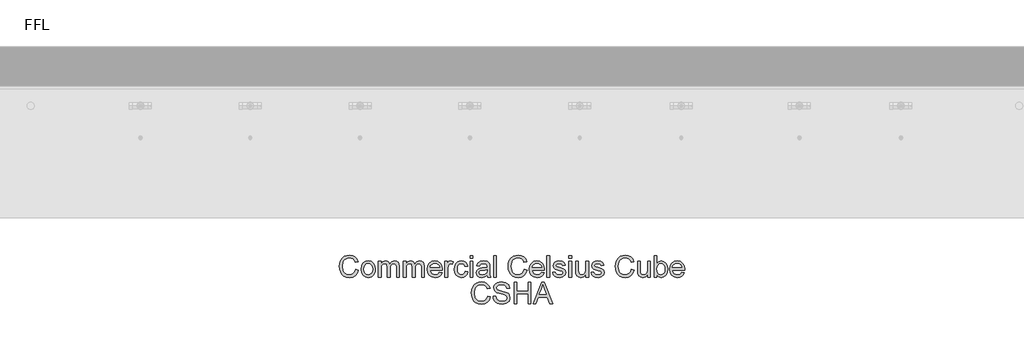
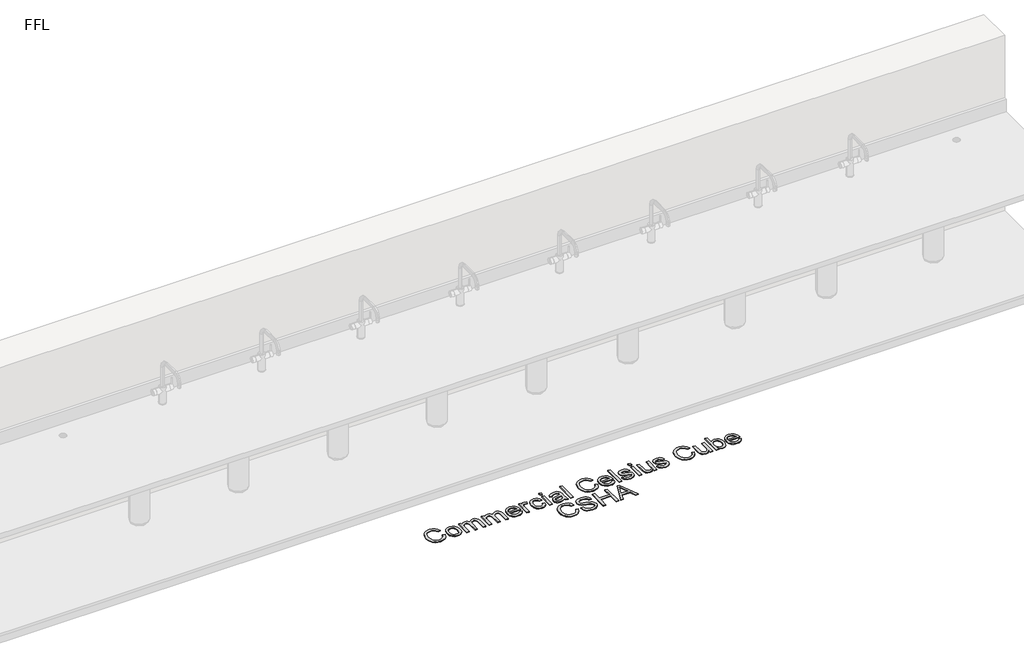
# One storey, part 6 of 10: 1 proxy.
"""IFC4 building model written with IfcOpenShell, lengths in millimetres."""

from ifc_helpers import new_model, si_unit, origin, origin_with_axes, place, context, project, spatial, polyline, outline, extrude, element, save

model = new_model("IFC4")

# Units and contexts
model_context = context("Model", 3, world=origin())
ifc_project = project(units=[si_unit("LENGTHUNIT", "METRE", prefix="MILLI")], contexts=[model_context])

# Site, building, storey
site = spatial("IfcSite", under=ifc_project)
building = spatial("IfcBuilding", under=site)
storey = spatial("IfcBuildingStorey", under=building, Name="FFL", Elevation=0.0)

# Proxy
placement = place(None, origin())
element("IfcBuildingElementProxy", 1, Name="150mm Arial", ObjectType="150mm Arial", at=placement, inside=storey, context=model_context, shape_type="SweptSolid", body=[
    extrude(outline(polyline([(6560.2647071, -1683.6981691), (6578.7262456, -1688.4577845), (6570.2076158, -1709.9707052), (6556.8392264, -1725.6873518), (6539.2791302, -1735.301234), (6518.1853802, -1738.5058614), (6496.7716182, -1736.0809816), (6479.7659091, -1728.8063422), (6466.7310533, -1716.934347), (6457.2298514, -1700.7173999), (6451.4290701, -1681.6518951), (6449.4954764, -1661.2342268), (6451.681474, -1639.6987701), (6458.2394667, -1621.1020153), (6468.8269066, -1606.0344071), (6483.1012456, -1595.0863903), (6500.0303321, -1588.4202244), (6518.5820148, -1586.1981691), (6538.8239018, -1589.0737701), (6555.5591783, -1597.700573), (6568.2650076, -1611.5467268), (6576.4185533, -1630.0803807), (6557.9570148, -1634.4794191), (6551.5567744, -1621.0163783), (6542.8127841, -1611.7811018), (6531.6168706, -1606.4400561), (6517.860861, -1604.6597076), (6502.0044908, -1606.6338662), (6488.9786494, -1612.5563422), (6479.0943345, -1621.8051403), (6472.6625437, -1633.7582653), (6467.9570148, -1661.1981691), (6473.5279283, -1693.0010537), (6480.6493225, -1704.8775561), (6490.8716783, -1713.3195633), (6503.1267865, -1718.3631331), (6516.3464379, -1720.044323), (6531.7565941, -1717.7546595), (6544.5976398, -1710.8856691), (6554.2926518, -1699.5094672), (6560.2647071, -1683.6981691)])), origin_with_axes(), (0.0, 0.0, 1.0), 5.0),
    extrude(outline(polyline([(6597.1877841, -1681.9673999), (6601.1811735, -1655.8165585), (6613.1613417, -1637.4361499), (6627.9630244, -1628.4307412), (6645.6853802, -1625.4289383), (6665.0799115, -1629.0842869), (6680.5711975, -1640.0503326), (6690.7259451, -1657.4616908), (6694.110861, -1680.4529768), (6692.6144667, -1699.1038182), (6688.1252841, -1713.3015345), (6680.774022, -1723.9340465), (6670.6913898, -1731.8892749), (6658.7157288, -1736.8517148), (6645.6853802, -1738.5058614), (6626.056474, -1734.8640345), (6610.5832167, -1723.9385537), (6600.5366422, -1706.1621114), (6597.1877841, -1681.9673999)]), holes=[polyline([(6615.6493225, -1681.9313422), (6617.7857408, -1698.6395754), (6624.1949956, -1710.543121), (6633.8404283, -1717.6690225), (6645.6853802, -1720.044323), (6657.4762456, -1717.6555008), (6667.1036494, -1710.4890345), (6673.5129042, -1698.4277364), (6675.6493225, -1681.3544191), (6673.4993826, -1665.1329648), (6667.0495629, -1653.3916787), (6657.4086374, -1646.2657773), (6645.6853802, -1643.8904768), (6633.8404283, -1646.2567629), (6624.1949956, -1653.355621), (6617.7857408, -1665.2321234), (6615.6493225, -1681.9313422)])]), origin_with_axes(), (0.0, 0.0, 1.0), 5.0),
    extrude(outline(polyline([(6714.8800917, -1736.1981691), (6714.8800917, -1627.7366307), (6733.3416302, -1627.7366307), (6733.3416302, -1645.5851883), (6746.0339379, -1630.9637941), (6764.0988417, -1625.4289383), (6774.3662696, -1626.8396956), (6782.5964379, -1631.0719672), (6792.7647071, -1646.8832653), (6807.1697552, -1630.7925201), (6825.360861, -1625.4289383), (6839.2385653, -1627.6600081), (6849.501486, -1634.3532172), (6855.8431326, -1645.6888542), (6857.9570148, -1661.8472076), (6857.9570148, -1736.1981691), (6839.4954764, -1736.1981691), (6839.4954764, -1669.7798999), (6837.782736, -1654.3652364), (6831.5808129, -1646.7750922), (6821.0339379, -1643.8904768), (6811.0324355, -1645.7384335), (6802.8788898, -1651.2823037), (6797.4567143, -1660.9006932), (6795.6493225, -1674.9722076), (6795.6493225, -1736.1981691), (6777.1877841, -1736.1981691), (6777.1877841, -1667.7246114), (6772.9149475, -1649.839996), (6767.2764259, -1645.3778566), (6758.9065341, -1643.8904768), (6745.2406687, -1647.856823), (6736.1541302, -1659.4673999), (6733.3416302, -1681.4986499), (6733.3416302, -1736.1981691), (6714.8800917, -1736.1981691)])), origin_with_axes(), (0.0, 0.0, 1.0), 5.0),
    extrude(outline(polyline([(6885.6493225, -1736.1981691), (6885.6493225, -1627.7366307), (6904.110861, -1627.7366307), (6904.110861, -1645.5851883), (6916.8031687, -1630.9637941), (6934.8680725, -1625.4289383), (6945.1355004, -1626.8396956), (6953.3656687, -1631.0719672), (6963.5339379, -1646.8832653), (6977.938986, -1630.7925201), (6996.1300917, -1625.4289383), (7010.0077961, -1627.6600081), (7020.2707167, -1634.3532172), (7026.6123634, -1645.6888542), (7028.7262456, -1661.8472076), (7028.7262456, -1736.1981691), (7010.2647071, -1736.1981691), (7010.2647071, -1669.7798999), (7008.5519667, -1654.3652364), (7002.3500437, -1646.7750922), (6991.8031687, -1643.8904768), (6981.8016663, -1645.7384335), (6973.6481206, -1651.2823037), (6968.2259451, -1660.9006932), (6966.4185533, -1674.9722076), (6966.4185533, -1736.1981691), (6947.9570148, -1736.1981691), (6947.9570148, -1667.7246114), (6943.6841783, -1649.839996), (6938.0456566, -1645.3778566), (6929.6757648, -1643.8904768), (6916.0098994, -1647.856823), (6906.923361, -1659.4673999), (6904.110861, -1681.4986499), (6904.110861, -1736.1981691), (6885.6493225, -1736.1981691)])), origin_with_axes(), (0.0, 0.0, 1.0), 5.0),
    extrude(outline(polyline([(7132.3560533, -1703.8904768), (7150.4570148, -1706.1981691), (7143.9350797, -1719.8369912), (7133.5279283, -1730.0323037), (7119.4699355, -1736.387472), (7101.9954764, -1738.5058614), (7080.3338177, -1734.8505129), (7063.6661494, -1723.8844672), (7053.0381446, -1706.3198638), (7049.4954764, -1682.8688422), (7053.0742023, -1658.6290585), (7063.8103802, -1640.5010537), (7080.2526879, -1629.1969672), (7100.9498033, -1625.4289383), (7121.0023874, -1629.1879528), (7137.0255244, -1640.464996), (7147.5318345, -1658.5569432), (7151.0339379, -1682.7606691), (7150.9257648, -1687.7366307), (7067.9570148, -1687.7366307), (7071.1526278, -1701.5557412), (7078.5760052, -1711.714996), (7089.289647, -1717.9619912), (7102.3560533, -1720.044323), (7120.4570148, -1716.1861499), (7132.3560533, -1703.8904768)]), holes=[polyline([(7067.9570148, -1669.2750922), (7132.5723994, -1669.2750922), (7130.0754042, -1659.5214864), (7125.1805725, -1652.544323), (7114.4173514, -1646.0539383), (7100.8776879, -1643.8904768), (7088.4332768, -1645.6167388), (7078.1433129, -1650.7955249), (7070.9903682, -1658.8679408), (7067.9570148, -1669.2750922)])]), origin_with_axes(), (0.0, 0.0, 1.0), 5.0),
    extrude(outline(polyline([(7169.4954764, -1736.1981691), (7169.4954764, -1627.7366307), (7185.6493225, -1627.7366307), (7185.6493225, -1643.7823037), (7197.1156687, -1628.9986499), (7208.6541302, -1625.4289383), (7227.1877841, -1631.1260537), (7221.0219187, -1647.6765345), (7208.0411494, -1643.8904768), (7197.6024475, -1647.5323037), (7190.9498033, -1657.6284576), (7187.9570148, -1679.1909576), (7187.9570148, -1736.1981691), (7169.4954764, -1736.1981691)])), origin_with_axes(), (0.0, 0.0, 1.0), 5.0),
    extrude(outline(polyline([(7307.9570148, -1696.9673999), (7326.4185533, -1699.2750922), (7321.2713177, -1715.6948638), (7311.5988417, -1728.1032172), (7298.3115821, -1735.9052004), (7282.3199956, -1738.5058614), (7262.6820749, -1734.8775561), (7247.3260052, -1723.9926403), (7237.414647, -1706.3288783), (7234.110861, -1682.3640345), (7239.7538898, -1651.6969672), (7246.8752841, -1640.1990706), (7256.9534091, -1631.9914383), (7269.0101999, -1627.0695633), (7282.0675917, -1625.4289383), (7297.6670509, -1627.6825441), (7310.1385052, -1634.4433614), (7319.0853201, -1645.3508133), (7324.110861, -1660.044323), (7305.6493225, -1662.3520153), (7297.0856206, -1648.5238903), (7282.2118225, -1643.8904768), (7270.2812336, -1646.1711258), (7260.8115821, -1653.013073), (7254.6321951, -1664.7859095), (7252.5723994, -1681.8592268), (7254.587123, -1699.1624119), (7260.6312937, -1710.9758133), (7269.9296711, -1717.7771956), (7281.7070148, -1720.044323), (7291.2668105, -1718.6290585), (7299.1048514, -1714.3832653), (7304.806474, -1707.1987701), (7307.9570148, -1696.9673999)])), origin_with_axes(), (0.0, 0.0, 1.0), 5.0),
    extrude(outline(polyline([(7342.5723994, -1606.9673999), (7342.5723994, -1588.5058614), (7361.0339379, -1588.5058614), (7361.0339379, -1606.9673999), (7342.5723994, -1606.9673999)])), origin_with_axes(), (0.0, 0.0, 1.0), 5.0),
    extrude(outline(polyline([(7342.5723994, -1736.1981691), (7342.5723994, -1627.7366307), (7361.0339379, -1627.7366307), (7361.0339379, -1736.1981691), (7342.5723994, -1736.1981691)])), origin_with_axes(), (0.0, 0.0, 1.0), 5.0),
    extrude(outline(polyline([(7457.9570148, -1722.3520153), (7440.0543706, -1734.8640345), (7420.2767264, -1738.5058614), (7404.8485413, -1736.3153566), (7393.4678321, -1729.7438422), (7386.4501038, -1719.7648758), (7384.110861, -1707.3520153), (7387.6445148, -1692.7486499), (7396.9293706, -1682.1476883), (7409.8560533, -1676.089996), (7425.829611, -1673.3135537), (7457.8488417, -1666.9673999), (7457.9570148, -1662.856823), (7456.6859812, -1654.6176403), (7452.8728802, -1649.2270153), (7444.345236, -1645.2246114), (7432.4642264, -1643.8904768), (7413.7863417, -1647.4421595), (7404.8800917, -1660.044323), (7386.4185533, -1657.7366307), (7394.4053321, -1639.7077845), (7410.4870629, -1629.1428807), (7434.8440341, -1625.4289383), (7457.2178321, -1628.7101883), (7469.8560533, -1636.949371), (7475.517111, -1649.4794191), (7476.4185533, -1665.6332653), (7476.4185533, -1688.6020153), (7477.3560533, -1720.6753326), (7481.0339379, -1736.1981691), (7462.5723994, -1736.1981691), (7457.9570148, -1722.3520153)]), holes=[polyline([(7457.9570148, -1685.4289383), (7428.173361, -1691.089996), (7412.2899475, -1694.0827845), (7405.0964379, -1698.950573), (7402.5723994, -1706.0539383), (7408.0711975, -1716.0419191), (7424.2070148, -1720.044323), (7442.8848994, -1715.6272557), (7454.9281687, -1704.9361499), (7457.8488417, -1690.6573037), (7457.9570148, -1685.4289383)])]), origin_with_axes(), (0.0, 0.0, 1.0), 5.0),
    extrude(outline(polyline([(7501.8031687, -1736.1981691), (7501.8031687, -1588.5058614), (7520.2647071, -1588.5058614), (7520.2647071, -1736.1981691), (7501.8031687, -1736.1981691)])), origin_with_axes(), (0.0, 0.0, 1.0), 5.0),
    extrude(outline(polyline([(7711.8031687, -1683.6981691), (7730.2647071, -1688.4577845), (7721.7460773, -1709.9707052), (7708.3776879, -1725.6873518), (7690.8175917, -1735.301234), (7669.7238417, -1738.5058614), (7648.3100797, -1736.0809816), (7631.3043706, -1728.8063422), (7618.2695148, -1716.934347), (7608.7683129, -1700.7173999), (7602.9675316, -1681.6518951), (7601.0339379, -1661.2342268), (7603.2199355, -1639.6987701), (7609.7779283, -1621.1020153), (7620.3653682, -1606.0344071), (7634.6397071, -1595.0863903), (7651.5687937, -1588.4202244), (7670.1204764, -1586.1981691), (7690.3623634, -1589.0737701), (7707.0976398, -1597.700573), (7719.8034691, -1611.5467268), (7727.9570148, -1630.0803807), (7709.4954764, -1634.4794191), (7703.095236, -1621.0163783), (7694.3512456, -1611.7811018), (7683.1553321, -1606.4400561), (7669.3993225, -1604.6597076), (7653.5429523, -1606.6338662), (7640.517111, -1612.5563422), (7630.6327961, -1621.8051403), (7624.2010052, -1633.7582653), (7619.4954764, -1661.1981691), (7625.0663898, -1693.0010537), (7632.1877841, -1704.8775561), (7642.4101398, -1713.3195633), (7654.665248, -1718.3631331), (7667.8848994, -1720.044323), (7683.2950557, -1717.7546595), (7696.1361014, -1710.8856691), (7705.8311134, -1699.5094672), (7711.8031687, -1683.6981691)])), origin_with_axes(), (0.0, 0.0, 1.0), 5.0),
    extrude(outline(polyline([(7829.2791302, -1703.8904768), (7847.3800917, -1706.1981691), (7840.8581566, -1719.8369912), (7830.4510052, -1730.0323037), (7816.3930124, -1736.387472), (7798.9185533, -1738.5058614), (7777.2568946, -1734.8505129), (7760.5892264, -1723.8844672), (7749.9612216, -1706.3198638), (7746.4185533, -1682.8688422), (7749.9972792, -1658.6290585), (7760.7334571, -1640.5010537), (7777.1757648, -1629.1969672), (7797.8728802, -1625.4289383), (7817.9254643, -1629.1879528), (7833.9486014, -1640.464996), (7844.4549115, -1658.5569432), (7847.9570148, -1682.7606691), (7847.8488417, -1687.7366307), (7764.8800917, -1687.7366307), (7768.0757047, -1701.5557412), (7775.4990821, -1711.714996), (7786.212724, -1717.9619912), (7799.2791302, -1720.044323), (7817.3800917, -1716.1861499), (7829.2791302, -1703.8904768)]), holes=[polyline([(7764.8800917, -1669.2750922), (7829.4954764, -1669.2750922), (7826.9984812, -1659.5214864), (7822.1036494, -1652.544323), (7811.3404283, -1646.0539383), (7797.8007648, -1643.8904768), (7785.3563538, -1645.6167388), (7775.0663898, -1650.7955249), (7767.9134451, -1658.8679408), (7764.8800917, -1669.2750922)])]), origin_with_axes(), (0.0, 0.0, 1.0), 5.0),
    extrude(outline(polyline([(7866.4185533, -1736.1981691), (7866.4185533, -1588.5058614), (7884.8800917, -1588.5058614), (7884.8800917, -1736.1981691), (7866.4185533, -1736.1981691)])), origin_with_axes(), (0.0, 0.0, 1.0), 5.0),
    extrude(outline(polyline([(7905.6493225, -1703.8904768), (7924.110861, -1701.5827845), (7927.0225196, -1709.4794191), (7932.6565341, -1715.2847076), (7952.235861, -1720.044323), (7971.0579764, -1715.6813422), (7977.1877841, -1705.4409576), (7971.0219187, -1697.1476883), (7952.0195148, -1691.8832653), (7924.2190341, -1682.8508133), (7912.0856206, -1672.3039383), (7907.9570148, -1657.4121114), (7911.2743225, -1643.6561018), (7920.3248033, -1633.1452845), (7932.0615821, -1627.6825441), (7947.9449956, -1625.4289383), (7970.4089379, -1629.0527364), (7984.6877841, -1638.8604287), (7991.0339379, -1655.4289383), (7972.5723994, -1657.7366307), (7965.6312937, -1647.5503326), (7949.3873033, -1643.8904768), (7931.7190341, -1647.388073), (7926.4185533, -1655.5371114), (7928.6180725, -1660.9097076), (7935.5050917, -1664.9842268), (7951.4065341, -1668.9145153), (7978.5038898, -1677.6044191), (7991.0880244, -1687.4481691), (7995.6493225, -1703.4938422), (7990.2947552, -1721.1621114), (7974.8440341, -1733.980621), (7951.9834571, -1738.5058614), (7933.3686735, -1736.324371), (7919.7839379, -1729.7798999), (7910.7154283, -1718.9445633), (7905.6493225, -1703.8904768)])), origin_with_axes(), (0.0, 0.0, 1.0), 5.0),
    extrude(outline(polyline([(8016.4185533, -1736.1981691), (8016.4185533, -1627.7366307), (8034.8800917, -1627.7366307), (8034.8800917, -1736.1981691), (8016.4185533, -1736.1981691)])), origin_with_axes(), (0.0, 0.0, 1.0), 5.0),
    extrude(outline(polyline([(8016.4185533, -1606.9673999), (8016.4185533, -1588.5058614), (8034.8800917, -1588.5058614), (8034.8800917, -1606.9673999), (8016.4185533, -1606.9673999)])), origin_with_axes(), (0.0, 0.0, 1.0), 5.0),
    extrude(outline(polyline([(8131.8031687, -1736.1981691), (8131.8031687, -1717.5563422), (8117.3440341, -1733.2684816), (8098.485861, -1738.5058614), (8081.1240821, -1734.8279768), (8069.1529283, -1725.5972076), (8063.6541302, -1712.0034576), (8062.5723994, -1694.839996), (8062.5723994, -1627.7366307), (8081.0339379, -1627.7366307), (8081.0339379, -1686.1500922), (8082.1517264, -1704.9722076), (8089.4534091, -1716.0238903), (8103.2094187, -1720.044323), (8118.6240821, -1715.933746), (8128.8103802, -1704.7378326), (8131.8031687, -1684.1669191), (8131.8031687, -1627.7366307), (8150.2647071, -1627.7366307), (8150.2647071, -1736.1981691), (8131.8031687, -1736.1981691)])), origin_with_axes(), (0.0, 0.0, 1.0), 5.0),
    extrude(outline(polyline([(8168.7262456, -1703.8904768), (8187.1877841, -1701.5827845), (8190.0994427, -1709.4794191), (8195.7334571, -1715.2847076), (8215.3127841, -1720.044323), (8234.1348994, -1715.6813422), (8240.2647071, -1705.4409576), (8234.0988417, -1697.1476883), (8215.0964379, -1691.8832653), (8187.2959571, -1682.8508133), (8175.1625437, -1672.3039383), (8171.0339379, -1657.4121114), (8174.3512456, -1643.6561018), (8183.4017264, -1633.1452845), (8195.1385052, -1627.6825441), (8211.0219187, -1625.4289383), (8233.485861, -1629.0527364), (8247.7647071, -1638.8604287), (8254.110861, -1655.4289383), (8235.6493225, -1657.7366307), (8228.7082167, -1647.5503326), (8212.4642264, -1643.8904768), (8194.7959571, -1647.388073), (8189.4954764, -1655.5371114), (8191.6949956, -1660.9097076), (8198.5820148, -1664.9842268), (8214.4834571, -1668.9145153), (8241.5808129, -1677.6044191), (8254.1649475, -1687.4481691), (8258.7262456, -1703.4938422), (8253.3716783, -1721.1621114), (8237.9209571, -1733.980621), (8215.0603802, -1738.5058614), (8196.4455966, -1736.324371), (8182.860861, -1729.7798999), (8173.7923514, -1718.9445633), (8168.7262456, -1703.8904768)])), origin_with_axes(), (0.0, 0.0, 1.0), 5.0),
    extrude(outline(polyline([(8443.3416302, -1683.6981691), (8461.8031687, -1688.4577845), (8453.2845389, -1709.9707052), (8439.9161494, -1725.6873518), (8422.3560533, -1735.301234), (8401.2623033, -1738.5058614), (8379.8485413, -1736.0809816), (8362.8428321, -1728.8063422), (8349.8079764, -1716.934347), (8340.3067744, -1700.7173999), (8334.5059932, -1681.6518951), (8332.5723994, -1661.2342268), (8334.758397, -1639.6987701), (8341.3163898, -1621.1020153), (8351.9038297, -1606.0344071), (8366.1781687, -1595.0863903), (8383.1072552, -1588.4202244), (8401.6589379, -1586.1981691), (8421.9008249, -1589.0737701), (8438.6361014, -1597.700573), (8451.3419307, -1611.5467268), (8459.4954764, -1630.0803807), (8441.0339379, -1634.4794191), (8434.6336975, -1621.0163783), (8425.8897071, -1611.7811018), (8414.6937937, -1606.4400561), (8400.9377841, -1604.6597076), (8385.0814139, -1606.6338662), (8372.0555725, -1612.5563422), (8362.1712576, -1621.8051403), (8355.7394667, -1633.7582653), (8351.0339379, -1661.1981691), (8356.6048514, -1693.0010537), (8363.7262456, -1704.8775561), (8373.9486014, -1713.3195633), (8386.2037095, -1718.3631331), (8399.423361, -1720.044323), (8414.8335172, -1717.7546595), (8427.6745629, -1710.8856691), (8437.3695749, -1699.5094672), (8443.3416302, -1683.6981691)])), origin_with_axes(), (0.0, 0.0, 1.0), 5.0),
    extrude(outline(polyline([(8554.110861, -1736.1981691), (8554.110861, -1717.5563422), (8539.6517264, -1733.2684816), (8520.7935533, -1738.5058614), (8503.4317744, -1734.8279768), (8491.4606206, -1725.5972076), (8485.9618225, -1712.0034576), (8484.8800917, -1694.839996), (8484.8800917, -1627.7366307), (8503.3416302, -1627.7366307), (8503.3416302, -1686.1500922), (8504.4594187, -1704.9722076), (8511.7611014, -1716.0238903), (8525.517111, -1720.044323), (8540.9317744, -1715.933746), (8551.1180725, -1704.7378326), (8554.110861, -1684.1669191), (8554.110861, -1627.7366307), (8572.5723994, -1627.7366307), (8572.5723994, -1736.1981691), (8554.110861, -1736.1981691)])), origin_with_axes(), (0.0, 0.0, 1.0), 5.0),
    extrude(outline(polyline([(8616.4185533, -1736.1981691), (8597.9570148, -1736.1981691), (8597.9570148, -1588.5058614), (8616.4185533, -1588.5058614), (8616.4185533, -1643.277496), (8629.345236, -1629.8910778), (8645.4089379, -1625.4289383), (8663.9065341, -1629.449371), (8678.2574956, -1640.7534576), (8687.0736014, -1658.3315826), (8690.2647071, -1680.3448037), (8686.9609211, -1704.9902364), (8677.0495629, -1723.325573), (8662.5047913, -1734.7107893), (8645.3007648, -1738.5058614), (8628.8855004, -1733.6110297), (8616.4185533, -1718.9265345), (8616.4185533, -1736.1981691)]), holes=[polyline([(8616.4185533, -1681.2101883), (8617.6805725, -1696.606823), (8621.4666302, -1707.027496), (8631.1391062, -1716.7901162), (8643.7142264, -1720.044323), (8654.3692744, -1717.6464864), (8663.4738417, -1710.4529768), (8669.7208369, -1698.5088662), (8671.8031687, -1681.8592268), (8669.806474, -1664.966198), (8663.8163898, -1653.1573037), (8654.9957768, -1646.2071835), (8644.5074956, -1643.8904768), (8633.8524475, -1646.2883133), (8624.7478802, -1653.481823), (8618.500885, -1665.2095874), (8616.4185533, -1681.2101883)])]), origin_with_axes(), (0.0, 0.0, 1.0), 5.0),
    extrude(outline(polyline([(8786.9714379, -1703.8904768), (8805.0723994, -1706.1981691), (8798.5504643, -1719.8369912), (8788.1433129, -1730.0323037), (8774.0853201, -1736.387472), (8756.610861, -1738.5058614), (8734.9492023, -1734.8505129), (8718.2815341, -1723.8844672), (8707.6535292, -1706.3198638), (8704.110861, -1682.8688422), (8707.6895869, -1658.6290585), (8718.4257648, -1640.5010537), (8734.8680725, -1629.1969672), (8755.5651879, -1625.4289383), (8775.617772, -1629.1879528), (8791.6409091, -1640.464996), (8802.1472191, -1658.5569432), (8805.6493225, -1682.7606691), (8805.5411494, -1687.7366307), (8722.5723994, -1687.7366307), (8725.7680124, -1701.5557412), (8733.1913898, -1711.714996), (8743.9050316, -1717.9619912), (8756.9714379, -1720.044323), (8775.0723994, -1716.1861499), (8786.9714379, -1703.8904768)]), holes=[polyline([(8722.5723994, -1669.2750922), (8787.1877841, -1669.2750922), (8784.6907889, -1659.5214864), (8779.7959571, -1652.544323), (8769.032736, -1646.0539383), (8755.4930725, -1643.8904768), (8743.0486615, -1645.6167388), (8732.7586975, -1650.7955249), (8725.6057528, -1658.8679408), (8722.5723994, -1669.2750922)])]), origin_with_axes(), (0.0, 0.0, 1.0), 5.0),
    extrude(outline(polyline([(7461.4185533, -1866.0058614), (7479.8800917, -1870.7654768), (7471.3614619, -1892.2783975), (7457.9930725, -1907.9950441), (7440.4329764, -1917.6089263), (7419.3392264, -1920.8135537), (7397.9254643, -1918.3886739), (7380.9197552, -1911.1140345), (7367.8848994, -1899.2420393), (7358.3836975, -1883.0250922), (7352.5829163, -1863.9595874), (7350.6493225, -1843.5419191), (7352.8353201, -1822.0064624), (7359.3933129, -1803.4097076), (7369.9807528, -1788.3420994), (7384.2550917, -1777.3940826), (7401.1841783, -1770.7279167), (7419.735861, -1768.5058614), (7439.977748, -1771.3814624), (7456.7130244, -1780.0082653), (7469.4188538, -1793.8544191), (7477.5723994, -1812.388073), (7459.110861, -1816.7871114), (7452.7106206, -1803.3240706), (7443.9666302, -1794.0887941), (7432.7707167, -1788.7477484), (7419.0147071, -1786.9673999), (7403.1583369, -1788.9415585), (7390.1324956, -1794.8640345), (7380.2481807, -1804.1128326), (7373.8163898, -1816.0659576), (7369.110861, -1843.5058614), (7374.6817744, -1875.308746), (7381.8031687, -1887.1852484), (7392.0255244, -1895.6272557), (7404.2806326, -1900.6708254), (7417.5002841, -1902.3520153), (7432.9104403, -1900.0623518), (7445.751486, -1893.1933614), (7455.446498, -1881.8171595), (7461.4185533, -1866.0058614)])), origin_with_axes(), (0.0, 0.0, 1.0), 5.0),
    extrude(outline(polyline([(7498.3416302, -1867.7366307), (7516.8031687, -1867.7366307), (7522.7526879, -1886.216198), (7537.2839379, -1897.8988903), (7559.423361, -1902.3520153), (7578.7142264, -1898.980621), (7591.1721591, -1889.7137941), (7595.2647071, -1877.3279768), (7592.1998033, -1865.8075441), (7579.6517264, -1857.4241307), (7552.7707167, -1850.3748518), (7523.8344187, -1841.2702845), (7508.1312937, -1827.5323037), (7502.9570148, -1809.1789383), (7504.5570749, -1798.3661379), (7509.3572552, -1788.2835057), (7517.2313538, -1779.7378326), (7528.0531687, -1773.5359095), (7555.4209571, -1768.5058614), (7584.6276879, -1773.7702845), (7595.8236014, -1780.2696835), (7604.0988417, -1789.2390345), (7609.3362216, -1800.1194432), (7611.4185533, -1812.3520153), (7592.9570148, -1812.3520153), (7589.5675917, -1801.3363903), (7582.5002841, -1793.3856691), (7571.4576158, -1788.5719672), (7556.142111, -1786.9673999), (7540.4660292, -1788.5539383), (7529.7118225, -1793.3135537), (7523.4918706, -1800.3177605), (7521.4185533, -1808.638073), (7522.8879042, -1815.7324239), (7527.2959571, -1821.4385537), (7557.4401879, -1831.7510537), (7590.1084571, -1841.0178807), (7600.6327961, -1847.715597), (7607.9750437, -1855.981823), (7613.7262456, -1876.8592268), (7612.072099, -1888.2399359), (7607.1096591, -1898.9445633), (7599.0417504, -1908.1573037), (7588.0711975, -1915.0623518), (7560.1445148, -1920.8135537), (7542.0570749, -1919.263073), (7527.1697552, -1914.6116307), (7515.3112816, -1906.841198), (7506.3103802, -1895.933746), (7500.532135, -1882.6464864), (7498.3416302, -1867.7366307)])), origin_with_axes(), (0.0, 0.0, 1.0), 5.0),
    extrude(outline(polyline([(7641.4185533, -1918.5058614), (7641.4185533, -1770.8135537), (7659.8800917, -1770.8135537), (7659.8800917, -1830.8135537), (7738.3416302, -1830.8135537), (7738.3416302, -1770.8135537), (7756.8031687, -1770.8135537), (7756.8031687, -1918.5058614), (7738.3416302, -1918.5058614), (7738.3416302, -1849.2750922), (7659.8800917, -1849.2750922), (7659.8800917, -1918.5058614), (7641.4185533, -1918.5058614)])), origin_with_axes(), (0.0, 0.0, 1.0), 5.0),
    extrude(outline(polyline([(7771.9113417, -1918.5058614), (7830.8656687, -1770.8135537), (7846.5868225, -1770.8135537), (7905.5411494, -1918.5058614), (7886.0339379, -1918.5058614), (7869.1228802, -1872.3520153), (7808.2935533, -1872.3520153), (7791.4185533, -1918.5058614), (7771.9113417, -1918.5058614)]), holes=[polyline([(7815.0723994, -1853.8904768), (7862.3800917, -1853.8904768), (7849.0748033, -1817.5803807), (7838.7262456, -1789.2750922), (7829.5315341, -1814.4073037), (7815.0723994, -1853.8904768)])]), origin_with_axes(), (0.0, 0.0, 1.0), 5.0),
])

save(model, "model.ifc")
